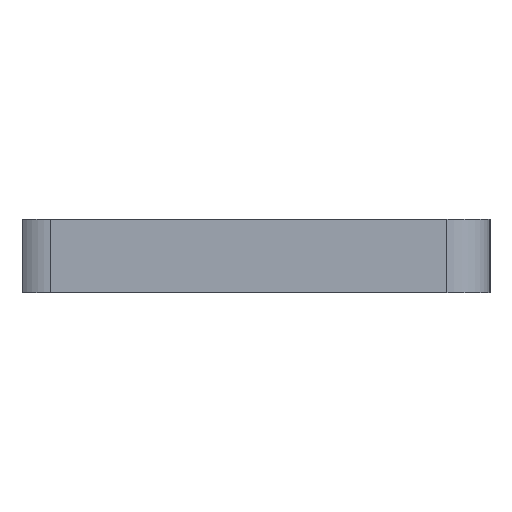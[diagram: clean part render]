
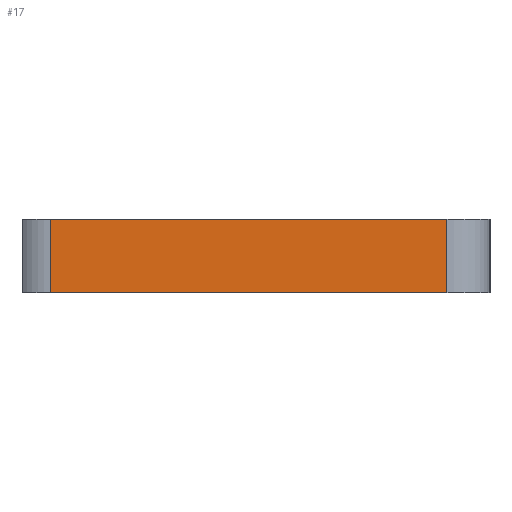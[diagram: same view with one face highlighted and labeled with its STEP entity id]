
A CAD part, left-side view. The second image highlights one B-rep face of the part: STEP entity #17.
In plain terms, the highlighted planar face has unit normal (-1, 0, 0).
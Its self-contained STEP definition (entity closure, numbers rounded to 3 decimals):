
#17 = ADVANCED_FACE('',(#18),#32,.F.);
#18 = FACE_BOUND('',#19,.F.);
#19 = EDGE_LOOP('',(#20,#55,#83,#111));
#20 = ORIENTED_EDGE('',*,*,#21,.F.);
#21 = EDGE_CURVE('',#22,#24,#26,.T.);
#22 = VERTEX_POINT('',#23);
#23 = CARTESIAN_POINT('',(3.4,6.4,11.05));
#24 = VERTEX_POINT('',#25);
#25 = CARTESIAN_POINT('',(3.4,34.,11.05));
#26 = SURFACE_CURVE('',#27,(#31,#43),.PCURVE_S1.);
#27 = LINE('',#28,#29);
#28 = CARTESIAN_POINT('',(3.4,3.4,11.05));
#29 = VECTOR('',#30,1.);
#30 = DIRECTION('',(0.,1.,0.));
#31 = PCURVE('',#32,#37);
#32 = PLANE('',#33);
#33 = AXIS2_PLACEMENT_3D('',#34,#35,#36);
#34 = CARTESIAN_POINT('',(3.4,3.4,5.95));
#35 = DIRECTION('',(1.,0.,0.));
#36 = DIRECTION('',(0.,0.,1.));
#37 = DEFINITIONAL_REPRESENTATION('',(#38),#42);
#38 = LINE('',#39,#40);
#39 = CARTESIAN_POINT('',(5.1,0.));
#40 = VECTOR('',#41,1.);
#41 = DIRECTION('',(0.,-1.));
#42 = ( GEOMETRIC_REPRESENTATION_CONTEXT(2) 
PARAMETRIC_REPRESENTATION_CONTEXT() REPRESENTATION_CONTEXT('2D SPACE',''
  ) );
#43 = PCURVE('',#44,#49);
#44 = PLANE('',#45);
#45 = AXIS2_PLACEMENT_3D('',#46,#47,#48);
#46 = CARTESIAN_POINT('',(3.4,3.4,11.05));
#47 = DIRECTION('',(0.,0.,1.));
#48 = DIRECTION('',(1.,0.,0.));
#49 = DEFINITIONAL_REPRESENTATION('',(#50),#54);
#50 = LINE('',#51,#52);
#51 = CARTESIAN_POINT('',(0.,0.));
#52 = VECTOR('',#53,1.);
#53 = DIRECTION('',(0.,1.));
#54 = ( GEOMETRIC_REPRESENTATION_CONTEXT(2) 
PARAMETRIC_REPRESENTATION_CONTEXT() REPRESENTATION_CONTEXT('2D SPACE',''
  ) );
#55 = ORIENTED_EDGE('',*,*,#56,.F.);
#56 = EDGE_CURVE('',#57,#22,#59,.T.);
#57 = VERTEX_POINT('',#58);
#58 = CARTESIAN_POINT('',(3.4,6.4,5.95));
#59 = SURFACE_CURVE('',#60,(#64,#71),.PCURVE_S1.);
#60 = LINE('',#61,#62);
#61 = CARTESIAN_POINT('',(3.4,6.4,5.95));
#62 = VECTOR('',#63,1.);
#63 = DIRECTION('',(0.,0.,1.));
#64 = PCURVE('',#32,#65);
#65 = DEFINITIONAL_REPRESENTATION('',(#66),#70);
#66 = LINE('',#67,#68);
#67 = CARTESIAN_POINT('',(0.,-3.));
#68 = VECTOR('',#69,1.);
#69 = DIRECTION('',(1.,0.));
#70 = ( GEOMETRIC_REPRESENTATION_CONTEXT(2) 
PARAMETRIC_REPRESENTATION_CONTEXT() REPRESENTATION_CONTEXT('2D SPACE',''
  ) );
#71 = PCURVE('',#72,#77);
#72 = CYLINDRICAL_SURFACE('',#73,3.);
#73 = AXIS2_PLACEMENT_3D('',#74,#75,#76);
#74 = CARTESIAN_POINT('',(6.4,6.4,5.95));
#75 = DIRECTION('',(0.,0.,1.));
#76 = DIRECTION('',(-1.,-0.,0.));
#77 = DEFINITIONAL_REPRESENTATION('',(#78),#82);
#78 = LINE('',#79,#80);
#79 = CARTESIAN_POINT('',(0.,0.));
#80 = VECTOR('',#81,1.);
#81 = DIRECTION('',(0.,1.));
#82 = ( GEOMETRIC_REPRESENTATION_CONTEXT(2) 
PARAMETRIC_REPRESENTATION_CONTEXT() REPRESENTATION_CONTEXT('2D SPACE',''
  ) );
#83 = ORIENTED_EDGE('',*,*,#84,.T.);
#84 = EDGE_CURVE('',#57,#85,#87,.T.);
#85 = VERTEX_POINT('',#86);
#86 = CARTESIAN_POINT('',(3.4,34.,5.95));
#87 = SURFACE_CURVE('',#88,(#92,#99),.PCURVE_S1.);
#88 = LINE('',#89,#90);
#89 = CARTESIAN_POINT('',(3.4,3.4,5.95));
#90 = VECTOR('',#91,1.);
#91 = DIRECTION('',(0.,1.,0.));
#92 = PCURVE('',#32,#93);
#93 = DEFINITIONAL_REPRESENTATION('',(#94),#98);
#94 = LINE('',#95,#96);
#95 = CARTESIAN_POINT('',(0.,0.));
#96 = VECTOR('',#97,1.);
#97 = DIRECTION('',(0.,-1.));
#98 = ( GEOMETRIC_REPRESENTATION_CONTEXT(2) 
PARAMETRIC_REPRESENTATION_CONTEXT() REPRESENTATION_CONTEXT('2D SPACE',''
  ) );
#99 = PCURVE('',#100,#105);
#100 = PLANE('',#101);
#101 = AXIS2_PLACEMENT_3D('',#102,#103,#104);
#102 = CARTESIAN_POINT('',(3.4,3.4,5.95));
#103 = DIRECTION('',(0.,0.,1.));
#104 = DIRECTION('',(1.,0.,0.));
#105 = DEFINITIONAL_REPRESENTATION('',(#106),#110);
#106 = LINE('',#107,#108);
#107 = CARTESIAN_POINT('',(0.,0.));
#108 = VECTOR('',#109,1.);
#109 = DIRECTION('',(0.,1.));
#110 = ( GEOMETRIC_REPRESENTATION_CONTEXT(2) 
PARAMETRIC_REPRESENTATION_CONTEXT() REPRESENTATION_CONTEXT('2D SPACE',''
  ) );
#111 = ORIENTED_EDGE('',*,*,#112,.T.);
#112 = EDGE_CURVE('',#85,#24,#113,.T.);
#113 = SURFACE_CURVE('',#114,(#118,#125),.PCURVE_S1.);
#114 = LINE('',#115,#116);
#115 = CARTESIAN_POINT('',(3.4,34.,5.95));
#116 = VECTOR('',#117,1.);
#117 = DIRECTION('',(0.,0.,1.));
#118 = PCURVE('',#32,#119);
#119 = DEFINITIONAL_REPRESENTATION('',(#120),#124);
#120 = LINE('',#121,#122);
#121 = CARTESIAN_POINT('',(0.,-30.6));
#122 = VECTOR('',#123,1.);
#123 = DIRECTION('',(1.,0.));
#124 = ( GEOMETRIC_REPRESENTATION_CONTEXT(2) 
PARAMETRIC_REPRESENTATION_CONTEXT() REPRESENTATION_CONTEXT('2D SPACE',''
  ) );
#125 = PCURVE('',#126,#131);
#126 = CYLINDRICAL_SURFACE('',#127,3.);
#127 = AXIS2_PLACEMENT_3D('',#128,#129,#130);
#128 = CARTESIAN_POINT('',(6.4,34.,5.95));
#129 = DIRECTION('',(0.,0.,1.));
#130 = DIRECTION('',(-1.,-0.,0.));
#131 = DEFINITIONAL_REPRESENTATION('',(#132),#136);
#132 = LINE('',#133,#134);
#133 = CARTESIAN_POINT('',(-0.,0.));
#134 = VECTOR('',#135,1.);
#135 = DIRECTION('',(-0.,1.));
#136 = ( GEOMETRIC_REPRESENTATION_CONTEXT(2) 
PARAMETRIC_REPRESENTATION_CONTEXT() REPRESENTATION_CONTEXT('2D SPACE',''
  ) );
